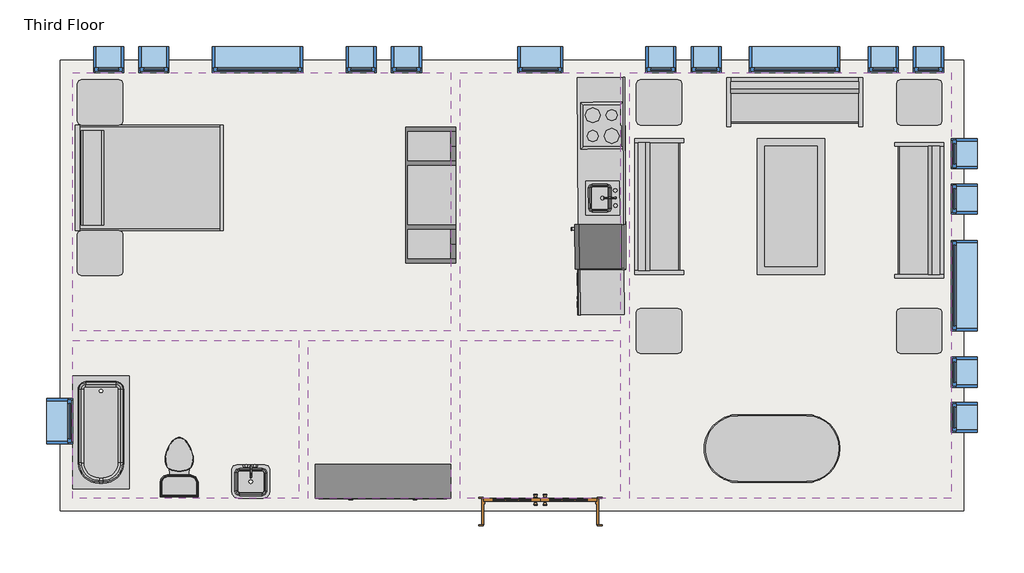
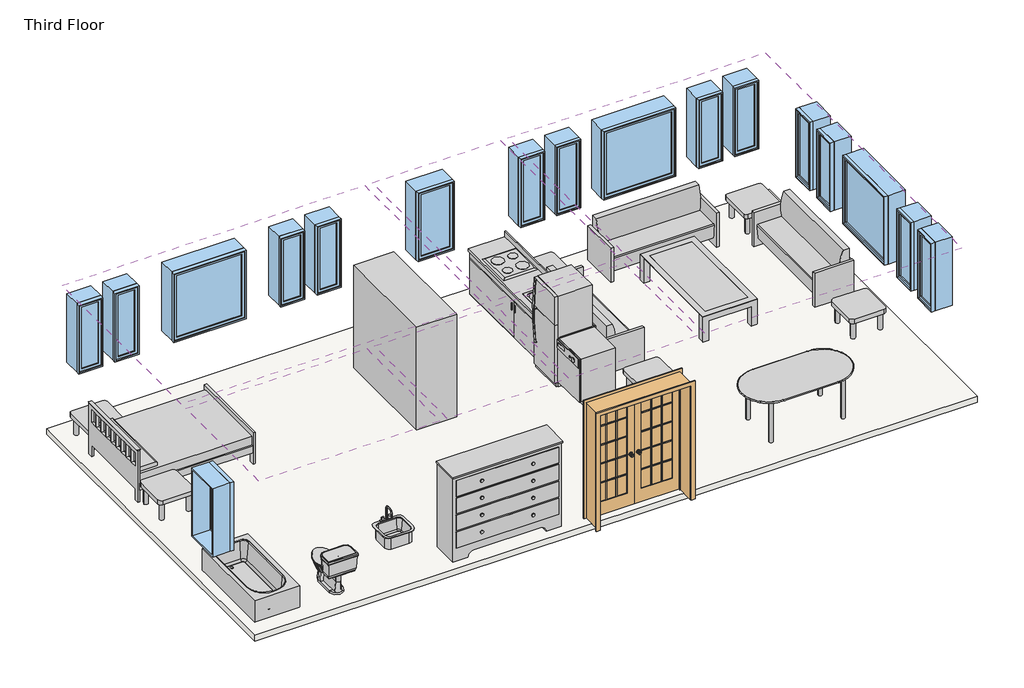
# One storey, incomplete: 17 windows, 15 furniture elements, 6 coverings, 4 flow terminals, 4 proxies, 1 door, 1 slab.
"""IFC4 building model written with IfcOpenShell, lengths in millimetres."""

from ifc_helpers import new_model, si_unit, frame, origin, place, context, project, spatial, polyline, outline, extrude, transform, mapped, element, save
from components import proxy_a6faaae8, proxy_45b28599, proxy_a6516e2b, proxy_c523a7b7, door_bfa3c7dc, flow_terminal_871c2e40, flow_terminal_62a433f7, toilet_domestic_3d_toilet_domestic_3d_f7549cf7, toilet_domestic_3d_toilet_domestic_3d_183bbd19, tub_rectangular_3d_tub_rectangular_3d_c56944d8, furniture_096e7f55, furniture_dc2eca4b, furniture_7c473f12, furniture_cf0b6580, furniture_a4ffab56, furniture_cd93a443, furniture_2c34a4f9, furniture_3a588284, window_da97879f, window_d61ef850, window_60baf983, window_6eb97611

model = new_model("IFC4")

# Units and contexts
model_context = context("Model", 3, world=origin())
ifc_project = project(units=[si_unit("LENGTHUNIT", "METRE", prefix="MILLI")], contexts=[model_context])

# Site, building, storey
site = spatial("IfcSite", under=ifc_project)
building = spatial("IfcBuilding", under=site)
storey = spatial("IfcBuildingStorey", under=building, Name="Third Floor", Elevation=6096.0)

# Proxies
placement = place(None, origin())
proxy_shape = proxy_a6faaae8(model_context)
element("IfcBuildingElementProxy", 1, Name="Cook Top-4 Unit2 : 22\" x 20\"", ObjectType="Cook Top-4 Unit2 : 22\" x 20\"", at=placement, inside=storey, context=model_context, shape_type="MappedRepresentation", body=[
    mapped(proxy_shape, transform((2899.8636904, 5211.0114446, 6096.0), x_axis=(0.006017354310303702, -0.9999818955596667, 0.0), y_axis=(0.9999818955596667, 0.006017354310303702, 0.0), z_axis=(0.0, 0.0, 1.0))),
])
proxy_2_shape = proxy_45b28599(model_context)
element("IfcBuildingElementProxy", 2, Name="Dishwasher : 24\" x 24\" x 34\"", ObjectType="Dishwasher : 24\" x 24\" x 34\"", at=placement, inside=storey, context=model_context, shape_type="MappedRepresentation", body=[
    mapped(proxy_2_shape, transform((2619.2452805, 3343.7065262, 6096.0), x_axis=(0.006017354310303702, -0.9999818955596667, 0.0), y_axis=(0.9999818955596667, 0.006017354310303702, 0.0), z_axis=(0.0, 0.0, 1.0))),
])
proxy_3_shape = proxy_a6516e2b(model_context)
element("IfcBuildingElementProxy", 3, Name="Kitchenette - Medium : 8'6\"", ObjectType="Kitchenette - Medium : 8'6\"", at=placement, inside=storey, context=model_context, shape_type="MappedRepresentation", body=[
    mapped(proxy_3_shape, transform((3208.4428612, 4583.8946262, 6096.0), x_axis=(0.006017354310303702, -0.9999818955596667, 0.0), y_axis=(0.9999818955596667, 0.006017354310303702, 0.0), z_axis=(0.0, 0.0, 1.0))),
])
proxy_4_shape = proxy_c523a7b7(model_context)
element("IfcBuildingElementProxy", 4, Name="Refrigerator : 24\" x 25\" LH", ObjectType="Refrigerator : 24\" x 25\" LH", at=placement, inside=storey, context=model_context, shape_type="MappedRepresentation", body=[
    mapped(proxy_4_shape, transform((2864.0355668, 3578.8163041, 6096.0), x_axis=(0.006017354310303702, -0.9999818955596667, 0.0), y_axis=(0.9999818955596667, 0.006017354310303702, 0.0), z_axis=(0.0, 0.0, 1.0))),
])

# Coverings
element("IfcCovering", 5, ObjectType="GWB on Mtl. Stud", at=placement, inside=storey, context=model_context, shape_type="SweptSolid", body=[
    extrude(outline(polyline([(-4235.3446388, 5924.893319), (858.9428612, 5924.893319), (858.9428612, 2441.918319), (-4235.3446388, 2441.918319), (-4235.3446388, 5924.893319)])), frame((0.0, 0.0, 8686.8), z_axis=(0.0, 0.0, 1.0), x_axis=(1.0, 0.0, 0.0)), (0.0, 0.0, 1.0), 107.95),
])
element("IfcCovering", 6, ObjectType="GWB on Mtl. Stud", at=placement, inside=storey, context=model_context, shape_type="SweptSolid", body=[
    extrude(outline(polyline([(985.9428612, 2441.918319), (985.9428612, 5924.893319), (3144.9428612, 5924.893319), (3144.9428612, 2441.918319), (985.9428612, 2441.918319)])), frame((0.0, 0.0, 8686.8), z_axis=(0.0, 0.0, 1.0), x_axis=(1.0, 0.0, 0.0)), (0.0, 0.0, 1.0), 107.95),
])
element("IfcCovering", 7, ObjectType="GWB on Mtl. Stud", at=placement, inside=storey, context=model_context, shape_type="SweptSolid", body=[
    extrude(outline(polyline([(3271.9428612, 181.318319), (3271.9428612, 5924.893319), (7604.2303612, 5924.893319), (7604.2303612, 181.318319), (3271.9428612, 181.318319)])), frame((0.0, 0.0, 8686.8), z_axis=(0.0, 0.0, 1.0), x_axis=(1.0, 0.0, 0.0)), (0.0, 0.0, 1.0), 107.95),
])
element("IfcCovering", 8, ObjectType="GWB on Mtl. Stud", at=placement, inside=storey, context=model_context, shape_type="SweptSolid", body=[
    extrude(outline(polyline([(-1187.3446388, 2314.918319), (-1187.3446388, 181.318319), (-4235.3446388, 181.318319), (-4235.3446388, 2314.918319), (-1187.3446388, 2314.918319)])), frame((0.0, 0.0, 8686.8), z_axis=(0.0, 0.0, 1.0), x_axis=(1.0, 0.0, 0.0)), (0.0, 0.0, 1.0), 107.95),
])
element("IfcCovering", 9, ObjectType="GWB on Mtl. Stud", at=placement, inside=storey, context=model_context, shape_type="SweptSolid", body=[
    extrude(outline(polyline([(858.9428612, 181.318319), (-1060.3446388, 181.318319), (-1060.3446388, 2314.918319), (858.9428612, 2314.918319), (858.9428612, 181.318319)])), frame((0.0, 0.0, 8686.8), z_axis=(0.0, 0.0, 1.0), x_axis=(1.0, 0.0, 0.0)), (0.0, 0.0, 1.0), 107.95),
])
element("IfcCovering", 10, ObjectType="GWB on Mtl. Stud", at=placement, inside=storey, context=model_context, shape_type="SweptSolid", body=[
    extrude(outline(polyline([(3144.9428612, 181.318319), (985.9428612, 181.318319), (985.9428612, 2314.918319), (3144.9428612, 2314.918319), (3144.9428612, 181.318319)])), frame((0.0, 0.0, 8686.8), z_axis=(0.0, 0.0, 1.0), x_axis=(1.0, 0.0, 0.0)), (0.0, 0.0, 1.0), 107.95),
])

# Door
door_shape = door_bfa3c7dc(model_context)
element("IfcDoor", 11, ObjectType="Door-Interior-Double-Full Glass-Wood : 60\" x 80\"", at=placement, inside=storey, context=model_context, shape_type="MappedRepresentation", body=[
    mapped(door_shape, transform((2065.4428612, 8.280819, 6096.0), x_axis=(1.0, 0.0, 0.0), y_axis=(0.0, 1.0, 0.0), z_axis=(0.0, 0.0, 1.0))),
])

# Flow terminals
flow_terminal_shape = flow_terminal_871c2e40(model_context)
element("IfcFlowTerminal", 12, ObjectType="Sink Kitchen-Island : 18\" x 18\"", at=placement, inside=storey, context=model_context, shape_type="MappedRepresentation", body=[
    mapped(flow_terminal_shape, transform((2903.3082949, 4248.8039924, 6081.6), x_axis=(0.006017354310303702, -0.9999818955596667, 0.0), y_axis=(0.9999818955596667, 0.006017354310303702, 0.0), z_axis=(0.0, 0.0, 1.0))),
])
flow_terminal_2_shape = flow_terminal_62a433f7(model_context)
element("IfcFlowTerminal", 13, ObjectType="Sink Vanity-Square : 20\" x 18\"", at=placement, inside=storey, context=model_context, shape_type="MappedRepresentation", body=[
    mapped(flow_terminal_2_shape, transform((-1850.7338794, 458.3729179, 6096.0), x_axis=(1.0, 0.0, 0.0), y_axis=(0.0, 1.0, 0.0), z_axis=(0.0, 0.0, 1.0))),
])
toilet_domestic_3d_toilet_domestic_3d_shape = toilet_domestic_3d_toilet_domestic_3d_f7549cf7(model_context)
toilet_domestic_3d_toilet_domestic_3d_2_shape = toilet_domestic_3d_toilet_domestic_3d_183bbd19(model_context)
element("IfcFlowTerminal", 14, ObjectType="Toilet-Domestic-3D : Toilet-Domestic-3D", at=placement, inside=storey, context=model_context, shape_type="MappedRepresentation", body=[
    mapped(toilet_domestic_3d_toilet_domestic_3d_shape, transform((-2800.2446388, 702.018319, 6096.0), x_axis=(-1.0, 0.0, 0.0), y_axis=(0.0, -1.0, 0.0), z_axis=(0.0, 0.0, 1.0))),
    mapped(toilet_domestic_3d_toilet_domestic_3d_2_shape, transform((-2800.2446388, 702.018319, 6096.0), x_axis=(-1.0, 0.0, 0.0), y_axis=(0.0, -1.0, 0.0), z_axis=(0.0, 0.0, 1.0))),
])
tub_rectangular_3d_tub_rectangular_3d_shape = tub_rectangular_3d_tub_rectangular_3d_c56944d8(model_context)
element("IfcFlowTerminal", 15, ObjectType="Tub-Rectangular-3D : Tub-Rectangular-3D", at=placement, inside=storey, context=model_context, shape_type="MappedRepresentation", body=[
    mapped(tub_rectangular_3d_tub_rectangular_3d_shape, transform((-4411.5571388, 723.3028503, 6096.0), x_axis=(0.0, -1.0, 0.0), y_axis=(1.0, 0.0, 0.0), z_axis=(0.0, 0.0, 1.0))),
])

# Furniture
furniture_shape = furniture_096e7f55(model_context)
element("IfcFurniture", 16, ObjectType="Bed-Shaker : Double 56\" x 78\"", at=placement, inside=storey, context=model_context, shape_type="MappedRepresentation", body=[
    mapped(furniture_shape, transform((-4190.1896154, 4526.4534268, 6096.0), x_axis=(-0.00030117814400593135, 0.9999999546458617, 0.0), y_axis=(-0.9999999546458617, -0.00030117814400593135, 0.0), z_axis=(0.0, 0.0, 1.0))),
])
furniture_2_shape = furniture_dc2eca4b(model_context)
element("IfcFurniture", 17, ObjectType="Counter Top w Sink Hole : 24\" Depth", at=placement, inside=storey, context=model_context, shape_type="MappedRepresentation", body=[
    mapped(furniture_2_shape, transform((3207.9843388, 4660.0932466, 6081.6), x_axis=(0.006017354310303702, -0.9999818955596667, 0.0), y_axis=(0.9999818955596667, 0.006017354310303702, 0.0), z_axis=(0.0, 0.0, 1.0))),
])
furniture_3_shape = furniture_7c473f12(model_context)
element("IfcFurniture", 18, ObjectType="Dresser : 72\" x 60\" x 18\"", at=placement, inside=storey, context=model_context, shape_type="MappedRepresentation", body=[
    mapped(furniture_3_shape, transform((213.736121, 773.0812731, 6096.0), x_axis=(1.0, 0.0, 0.0), y_axis=(0.0, 1.0, 0.0), z_axis=(0.0, 0.0, 1.0))),
])
furniture_4_shape = furniture_cf0b6580(model_context)
element("IfcFurniture", 19, ObjectType="Entertainment Center : 72\" x 72\" x 24\"", at=placement, inside=storey, context=model_context, shape_type="MappedRepresentation", body=[
    mapped(furniture_4_shape, transform((147.7428612, 4272.305819, 6096.0), x_axis=(0.0, 1.0, 0.0), y_axis=(-1.0, 0.0, 0.0), z_axis=(0.0, 0.0, 1.0))),
])
furniture_5_shape = furniture_a4ffab56(model_context)
element("IfcFurniture", 20, ObjectType="Sofa : 72\"", at=placement, inside=storey, context=model_context, shape_type="MappedRepresentation", body=[
    mapped(furniture_5_shape, transform((5424.0723694, 5377.3466921, 6096.0), x_axis=(1.0, 0.0, 0.0), y_axis=(0.0, 1.0, 0.0), z_axis=(0.0, 0.0, 1.0))),
])
element("IfcFurniture", 21, ObjectType="Sofa : 72\"", at=placement, inside=storey, context=model_context, shape_type="MappedRepresentation", body=[
    mapped(furniture_5_shape, transform((3811.7969596, 4049.5353272, 6096.0), x_axis=(0.0, 1.0000000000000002, 0.0), y_axis=(-1.0000000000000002, 0.0, 0.0), z_axis=(0.0, 0.0, 1.0))),
])
element("IfcFurniture", 22, ObjectType="Sofa : 72\"", at=placement, inside=storey, context=model_context, shape_type="MappedRepresentation", body=[
    mapped(furniture_5_shape, transform((7024.6887628, 4139.4763108, 6096.0), x_axis=(0.0, -1.0, 0.0), y_axis=(1.0, 0.0, 0.0), z_axis=(0.0, 0.0, 1.0))),
])
furniture_6_shape = furniture_cd93a443(model_context)
element("IfcFurniture", 23, ObjectType="Table-Coffee : 36\" x 72\" x 18\"", at=placement, inside=storey, context=model_context, shape_type="MappedRepresentation", body=[
    mapped(furniture_6_shape, transform((5538.853939, 4101.6400523, 6096.0), x_axis=(0.0, 1.0, 0.0), y_axis=(-1.0, 0.0, 0.0), z_axis=(0.0, 0.0, 1.0))),
])
furniture_7_shape = furniture_2c34a4f9(model_context)
element("IfcFurniture", 24, ObjectType="Table-Dining Oval : 36\" x 72\"", at=placement, inside=storey, context=model_context, shape_type="MappedRepresentation", body=[
    mapped(furniture_7_shape, transform((5591.4625333, 1212.5166797, 6096.0), x_axis=(1.0, 0.0, 0.0), y_axis=(0.0, 1.0, 0.0), z_axis=(0.0, 0.0, 1.0))),
])
furniture_8_shape = furniture_3a588284(model_context)
element("IfcFurniture", 25, ObjectType="Table-End : 24\" x 24\"", at=placement, inside=storey, context=model_context, shape_type="MappedRepresentation", body=[
    mapped(furniture_8_shape, transform((-4175.5782691, 5371.1007905, 6096.0), x_axis=(1.0, 0.0, 0.0), y_axis=(0.0, 1.0, 0.0), z_axis=(0.0, 0.0, 1.0))),
])
element("IfcFurniture", 26, ObjectType="Table-End : 24\" x 24\"", at=placement, inside=storey, context=model_context, shape_type="MappedRepresentation", body=[
    mapped(furniture_8_shape, transform((-4175.5782691, 3339.0089188, 6096.0), x_axis=(1.0, 0.0, 0.0), y_axis=(0.0, 1.0, 0.0), z_axis=(0.0, 0.0, 1.0))),
])
element("IfcFurniture", 27, ObjectType="Table-End : 24\" x 24\"", at=placement, inside=storey, context=model_context, shape_type="MappedRepresentation", body=[
    mapped(furniture_8_shape, transform((3357.1092309, 5371.1007905, 6096.0), x_axis=(1.0, 0.0, 0.0), y_axis=(0.0, 1.0, 0.0), z_axis=(0.0, 0.0, 1.0))),
])
element("IfcFurniture", 28, ObjectType="Table-End : 24\" x 24\"", at=placement, inside=storey, context=model_context, shape_type="MappedRepresentation", body=[
    mapped(furniture_8_shape, transform((3357.1092309, 2289.518319, 6096.0), x_axis=(1.0, 0.0, 0.0), y_axis=(0.0, 1.0, 0.0), z_axis=(0.0, 0.0, 1.0))),
])
element("IfcFurniture", 29, ObjectType="Table-End : 24\" x 24\"", at=placement, inside=storey, context=model_context, shape_type="MappedRepresentation", body=[
    mapped(furniture_8_shape, transform((6862.3092309, 2289.518319, 6096.0), x_axis=(1.0, 0.0, 0.0), y_axis=(0.0, 1.0, 0.0), z_axis=(0.0, 0.0, 1.0))),
])
element("IfcFurniture", 30, ObjectType="Table-End : 24\" x 24\"", at=placement, inside=storey, context=model_context, shape_type="MappedRepresentation", body=[
    mapped(furniture_8_shape, transform((6862.3092309, 5371.1007905, 6096.0), x_axis=(1.0, 0.0, 0.0), y_axis=(0.0, 1.0, 0.0), z_axis=(0.0, 0.0, 1.0))),
])

# Slab
element("IfcSlab", 31, ObjectType="LW Concrete on Metal Deck", at=placement, inside=storey, context=model_context, shape_type="SweptSolid", body=[
    extrude(outline(polyline([(7769.3303612, 6089.993319), (7769.3303612, 16.218319), (-4400.4446388, 16.218319), (-4400.4446388, 6089.993319), (7769.3303612, 6089.993319)])), frame((0.0, 0.0, 5991.225), z_axis=(0.0, 0.0, 1.0), x_axis=(1.0, 0.0, 0.0)), (0.0, 0.0, 1.0), 104.775),
])

# Windows
window_shape = window_da97879f(model_context)
element("IfcWindow", 32, ObjectType="Fixed : 16\" x 48\"", at=placement, inside=storey, context=model_context, shape_type="MappedRepresentation", body=[
    mapped(window_shape, transform((-3789.2571388, 6101.105819, 6096.0), x_axis=(-1.0, 0.0, 0.0), y_axis=(0.0, -1.0, 0.0), z_axis=(0.0, 0.0, 1.0))),
])
element("IfcWindow", 33, ObjectType="Fixed : 16\" x 48\"", at=placement, inside=storey, context=model_context, shape_type="MappedRepresentation", body=[
    mapped(window_shape, transform((-3179.6571388, 6101.105819, 6096.0), x_axis=(-1.0, 0.0, 0.0), y_axis=(0.0, -1.0, 0.0), z_axis=(0.0, 0.0, 1.0))),
])
element("IfcWindow", 34, ObjectType="Fixed : 16\" x 48\"", at=placement, inside=storey, context=model_context, shape_type="MappedRepresentation", body=[
    mapped(window_shape, transform((3652.9428612, 6101.105819, 6096.0), x_axis=(-1.0, 0.0, 0.0), y_axis=(0.0, -1.0, 0.0), z_axis=(0.0, 0.0, 1.0))),
])
element("IfcWindow", 35, ObjectType="Fixed : 16\" x 48\"", at=placement, inside=storey, context=model_context, shape_type="MappedRepresentation", body=[
    mapped(window_shape, transform((4262.5428612, 6101.105819, 6096.0), x_axis=(-1.0, 0.0, 0.0), y_axis=(0.0, -1.0, 0.0), z_axis=(0.0, 0.0, 1.0))),
])
element("IfcWindow", 36, ObjectType="Fixed : 16\" x 48\"", at=placement, inside=storey, context=model_context, shape_type="MappedRepresentation", body=[
    mapped(window_shape, transform((7780.4428612, 4869.205819, 6096.0), x_axis=(0.0, 1.0, 0.0), y_axis=(-1.0, 0.0, 0.0), z_axis=(0.0, 0.0, 1.0))),
])
element("IfcWindow", 37, ObjectType="Fixed : 16\" x 48\"", at=placement, inside=storey, context=model_context, shape_type="MappedRepresentation", body=[
    mapped(window_shape, transform((7780.4428612, 4259.605819, 6096.0), x_axis=(0.0, 1.0, 0.0), y_axis=(-1.0, 0.0, 0.0), z_axis=(0.0, 0.0, 1.0))),
])
window_2_shape = window_d61ef850(model_context)
element("IfcWindow", 38, ObjectType="Fixed : 16\" x 48\"", at=placement, inside=storey, context=model_context, shape_type="MappedRepresentation", body=[
    mapped(window_2_shape, transform((300.1428612, 6101.105819, 6096.0), x_axis=(1.0, 0.0, 0.0), y_axis=(0.0, 1.0, 0.0), z_axis=(0.0, 0.0, 1.0))),
])
element("IfcWindow", 39, ObjectType="Fixed : 16\" x 48\"", at=placement, inside=storey, context=model_context, shape_type="MappedRepresentation", body=[
    mapped(window_2_shape, transform((-309.4571388, 6101.105819, 6096.0), x_axis=(1.0, 0.0, 0.0), y_axis=(0.0, 1.0, 0.0), z_axis=(0.0, 0.0, 1.0))),
])
element("IfcWindow", 40, ObjectType="Fixed : 16\" x 48\"", at=placement, inside=storey, context=model_context, shape_type="MappedRepresentation", body=[
    mapped(window_2_shape, transform((7335.9428612, 6101.105819, 6096.0), x_axis=(1.0, 0.0, 0.0), y_axis=(0.0, 1.0, 0.0), z_axis=(0.0, 0.0, 1.0))),
])
element("IfcWindow", 41, ObjectType="Fixed : 16\" x 48\"", at=placement, inside=storey, context=model_context, shape_type="MappedRepresentation", body=[
    mapped(window_2_shape, transform((6726.3428612, 6101.105819, 6096.0), x_axis=(1.0, 0.0, 0.0), y_axis=(0.0, 1.0, 0.0), z_axis=(0.0, 0.0, 1.0))),
])
element("IfcWindow", 42, ObjectType="Fixed : 16\" x 48\"", at=placement, inside=storey, context=model_context, shape_type="MappedRepresentation", body=[
    mapped(window_2_shape, transform((7780.4428612, 1237.005819, 6096.0), x_axis=(0.0, -1.0, 0.0), y_axis=(1.0, 0.0, 0.0), z_axis=(0.0, 0.0, 1.0))),
])
element("IfcWindow", 43, ObjectType="Fixed : 16\" x 48\"", at=placement, inside=storey, context=model_context, shape_type="MappedRepresentation", body=[
    mapped(window_2_shape, transform((7780.4428612, 1846.605819, 6096.0), x_axis=(0.0, -1.0, 0.0), y_axis=(1.0, 0.0, 0.0), z_axis=(0.0, 0.0, 1.0))),
])
window_3_shape = window_60baf983(model_context)
element("IfcWindow", 44, ObjectType="Fixed : 24\" x 48\"", at=placement, inside=storey, context=model_context, shape_type="MappedRepresentation", body=[
    mapped(window_3_shape, transform((2027.3428612, 6101.105819, 6096.0), x_axis=(-1.0, 0.0, 0.0), y_axis=(0.0, -1.0, 0.0), z_axis=(0.0, 0.0, 1.0))),
])
element("IfcWindow", 45, ObjectType="Fixed : 24\" x 48\"", at=placement, inside=storey, context=model_context, shape_type="MappedRepresentation", body=[
    mapped(window_3_shape, transform((-4411.5571388, 1186.205819, 6096.0), x_axis=(0.0, -1.0, 0.0), y_axis=(1.0, 0.0, 0.0), z_axis=(0.0, 0.0, 1.0))),
])
window_4_shape = window_6eb97611(model_context)
element("IfcWindow", 46, ObjectType="Fixed : 48\" x 48\"", at=placement, inside=storey, context=model_context, shape_type="MappedRepresentation", body=[
    mapped(window_4_shape, transform((-1782.6571388, 6101.105819, 6096.0), x_axis=(-1.0, 0.0, 0.0), y_axis=(0.0, -1.0, 0.0), z_axis=(0.0, 0.0, 1.0))),
])
element("IfcWindow", 47, ObjectType="Fixed : 48\" x 48\"", at=placement, inside=storey, context=model_context, shape_type="MappedRepresentation", body=[
    mapped(window_4_shape, transform((5456.3428612, 6101.105819, 6096.0), x_axis=(-1.0, 0.0, 0.0), y_axis=(0.0, -1.0, 0.0), z_axis=(0.0, 0.0, 1.0))),
])
element("IfcWindow", 48, ObjectType="Fixed : 48\" x 48\"", at=placement, inside=storey, context=model_context, shape_type="MappedRepresentation", body=[
    mapped(window_4_shape, transform((7780.4428612, 3091.205819, 6096.0), x_axis=(0.0, 1.0, 0.0), y_axis=(-1.0, 0.0, 0.0), z_axis=(0.0, 0.0, 1.0))),
])

save(model, "model.ifc")
